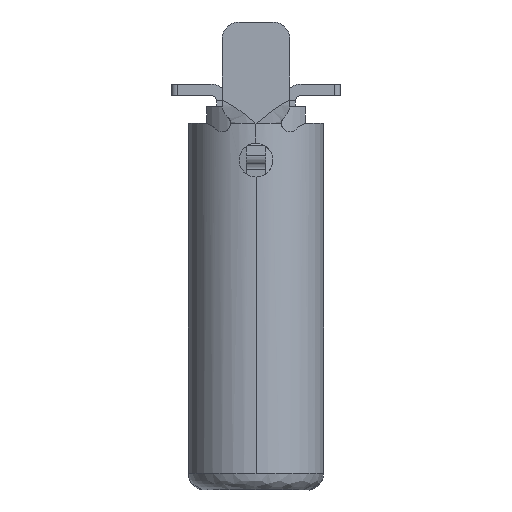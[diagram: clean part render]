
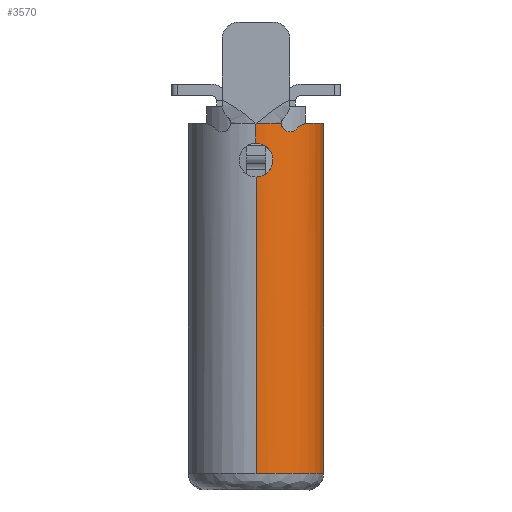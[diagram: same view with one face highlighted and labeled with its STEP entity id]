
A CAD part, left-side view. The second image highlights one B-rep face of the part: STEP entity #3570.
In plain terms, the highlighted cylindrical face has radius 1.2 mm (diameter 2.4 mm), a partial arc.
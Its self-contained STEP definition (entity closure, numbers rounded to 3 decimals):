
#1636 = FACE_OUTER_BOUND ( 'NONE', #39449, .T. ) ;
#1639 = CYLINDRICAL_SURFACE ( 'NONE', #37293, 1.2 ) ;
#3570 = ADVANCED_FACE ( 'NONE', ( #1636 ), #1639, .T. ) ;
#6111 = DIRECTION ( 'NONE',  ( 0., 0., -1. ) ) ;
#6112 = DIRECTION ( 'NONE',  ( -1., 0., 0. ) ) ;
#6115 = CARTESIAN_POINT ( 'NONE',  ( -2.925, 0., 9.575 ) ) ;
#7229 = EDGE_CURVE ( 'NONE', #37765, #37744, #39747, .T. ) ;
#7249 = EDGE_CURVE ( 'NONE', #37744, #37809, #10380, .T. ) ;
#7250 = EDGE_CURVE ( 'NONE', #37809, #37813, #10378, .T. ) ;
#7251 = EDGE_CURVE ( 'NONE', #37813, #37814, #11701, .T. ) ;
#7252 = EDGE_CURVE ( 'NONE', #37814, #37815, #10383, .T. ) ;
#7253 = EDGE_CURVE ( 'NONE', #37812, #37815, #10381, .T. ) ;
#7254 = EDGE_CURVE ( 'NONE', #37797, #37812, #10385, .T. ) ;
#7255 = EDGE_CURVE ( 'NONE', #37797, #37818, #10377, .T. ) ;
#7256 = EDGE_CURVE ( 'NONE', #37818, #37819, #11698, .T. ) ;
#7257 = EDGE_CURVE ( 'NONE', #37819, #37765, #31664, .T. ) ;
#9384 = CARTESIAN_POINT ( 'NONE',  ( -4.004, -0.527, 7.813 ) ) ;
#9389 = CARTESIAN_POINT ( 'NONE',  ( -3.985, -0.564, 7.8 ) ) ;
#9392 = CARTESIAN_POINT ( 'NONE',  ( -3.964, -0.6, 7.8 ) ) ;
#9394 = CARTESIAN_POINT ( 'NONE',  ( -4.03, -0.469, 7.867 ) ) ;
#9395 = CARTESIAN_POINT ( 'NONE',  ( -4.037, -0.45, 7.908 ) ) ;
#9396 = CARTESIAN_POINT ( 'NONE',  ( -4.037, -0.45, 7.95 ) ) ;
#9480 = DIRECTION ( 'NONE',  ( 0., 0., -1. ) ) ;
#9481 = CARTESIAN_POINT ( 'NONE',  ( -4.125, 0., 9.575 ) ) ;
#9493 = CARTESIAN_POINT ( 'NONE',  ( -4.125, 0., 7.6 ) ) ;
#9494 = CARTESIAN_POINT ( 'NONE',  ( -4.125, -0.079, 7.6 ) ) ;
#9495 = CARTESIAN_POINT ( 'NONE',  ( -2.925, 0., 7.95 ) ) ;
#9496 = DIRECTION ( 'NONE',  ( 0., 0., -1. ) ) ;
#9497 = DIRECTION ( 'NONE',  ( -1., 0., 0. ) ) ;
#9498 = DIRECTION ( 'NONE',  ( 0., 0., -1. ) ) ;
#9499 = CARTESIAN_POINT ( 'NONE',  ( -2.925, -1.2, 5.636 ) ) ;
#9500 = CARTESIAN_POINT ( 'NONE',  ( -4.116, -0.157, 7.567 ) ) ;
#9501 = CARTESIAN_POINT ( 'NONE',  ( -4.096, -0.267, 7.457 ) ) ;
#9502 = CARTESIAN_POINT ( 'NONE',  ( -4.087, -0.3, 7.379 ) ) ;
#9503 = CARTESIAN_POINT ( 'NONE',  ( -4.087, -0.3, 7.221 ) ) ;
#9504 = CARTESIAN_POINT ( 'NONE',  ( -4.096, -0.267, 7.143 ) ) ;
#9505 = CARTESIAN_POINT ( 'NONE',  ( -4.116, -0.157, 7.033 ) ) ;
#9506 = CARTESIAN_POINT ( 'NONE',  ( -4.125, -0.079, 7. ) ) ;
#9507 = CARTESIAN_POINT ( 'NONE',  ( -4.125, 0., 7. ) ) ;
#9508 = CARTESIAN_POINT ( 'NONE',  ( -4.125, 0., 9.575 ) ) ;
#9509 = DIRECTION ( 'NONE',  ( 0., 0., -1. ) ) ;
#9510 = CARTESIAN_POINT ( 'NONE',  ( -3.913, -0.682, 7.817 ) ) ;
#9511 = CARTESIAN_POINT ( 'NONE',  ( -2.925, 0., 1.744 ) ) ;
#9512 = DIRECTION ( 'NONE',  ( 0., 0., -1. ) ) ;
#9513 = DIRECTION ( 'NONE',  ( -1., 0., 0. ) ) ;
#9514 = CARTESIAN_POINT ( 'NONE',  ( -3.891, -0.712, 7.85 ) ) ;
#9515 = CARTESIAN_POINT ( 'NONE',  ( -3.72, -0.9, 7.95 ) ) ;
#9516 = CARTESIAN_POINT ( 'NONE',  ( -3.761, -0.863, 7.944 ) ) ;
#9517 = CARTESIAN_POINT ( 'NONE',  ( -2.925, 0., 7.95 ) ) ;
#9518 = DIRECTION ( 'NONE',  ( 0., 0., -1. ) ) ;
#9519 = DIRECTION ( 'NONE',  ( -1., 0., 0. ) ) ;
#9520 = CARTESIAN_POINT ( 'NONE',  ( -3.677, -0.935, 7.95 ) ) ;
#9521 = CARTESIAN_POINT ( 'NONE',  ( -3.834, -0.785, 7.913 ) ) ;
#9522 = CARTESIAN_POINT ( 'NONE',  ( -3.866, -0.745, 7.888 ) ) ;
#9523 = CARTESIAN_POINT ( 'NONE',  ( -3.891, -0.712, 7.85 ) ) ;
#9525 = CARTESIAN_POINT ( 'NONE',  ( -3.94, -0.642, 7.8 ) ) ;
#9526 = CARTESIAN_POINT ( 'NONE',  ( -3.964, -0.6, 7.8 ) ) ;
#9872 = AXIS2_PLACEMENT_3D ( 'NONE', #9495, #9496, #9497 ) ;
#9873 = AXIS2_PLACEMENT_3D ( 'NONE', #9511, #9512, #9513 ) ;
#9874 = AXIS2_PLACEMENT_3D ( 'NONE', #9517, #9518, #9519 ) ;
#10377 = CIRCLE ( 'NONE', #9874, 1.2 ) ;
#10378 = LINE ( 'NONE', #9481, #10382 ) ;
#10380 = CIRCLE ( 'NONE', #9872, 1.2 ) ;
#10381 = CIRCLE ( 'NONE', #9873, 1.2 ) ;
#10382 = VECTOR ( 'NONE', #9480, 1000. ) ;
#10383 = LINE ( 'NONE', #9508, #10384 ) ;
#10384 = VECTOR ( 'NONE', #9509, 1000. ) ;
#10385 = LINE ( 'NONE', #9499, #10387 ) ;
#10387 = VECTOR ( 'NONE', #9498, 1000. ) ;
#11698 = B_SPLINE_CURVE_WITH_KNOTS ( 'NONE', 3,
 ( #9520, #9515, #9516, #9521, #9522, #9523 ),
 .UNSPECIFIED., .F., .F.,
 ( 4, 2, 4 ),
 ( 0., 0., 0. ),
 .UNSPECIFIED. ) ;
#11701 = B_SPLINE_CURVE_WITH_KNOTS ( 'NONE', 3,
 ( #9493, #9494, #9500, #9501, #9502, #9503, #9504, #9505, #9506, #9507 ),
 .UNSPECIFIED., .F., .F.,
 ( 4, 2, 2, 2, 4 ),
 ( 0., 0., 0.001, 0.001, 0.001 ),
 .UNSPECIFIED. ) ;
#12550 = ORIENTED_EDGE ( 'NONE', *, *, #7249, .T. ) ;
#12551 = ORIENTED_EDGE ( 'NONE', *, *, #7250, .T. ) ;
#12552 = ORIENTED_EDGE ( 'NONE', *, *, #7251, .T. ) ;
#12553 = ORIENTED_EDGE ( 'NONE', *, *, #7252, .T. ) ;
#12554 = ORIENTED_EDGE ( 'NONE', *, *, #7253, .F. ) ;
#12555 = ORIENTED_EDGE ( 'NONE', *, *, #7254, .F. ) ;
#12556 = ORIENTED_EDGE ( 'NONE', *, *, #7255, .T. ) ;
#12557 = ORIENTED_EDGE ( 'NONE', *, *, #7256, .T. ) ;
#12558 = ORIENTED_EDGE ( 'NONE', *, *, #7257, .T. ) ;
#12559 = ORIENTED_EDGE ( 'NONE', *, *, #7229, .T. ) ;
#27202 = CARTESIAN_POINT ( 'NONE',  ( -4.037, -0.45, 7.95 ) ) ;
#27223 = CARTESIAN_POINT ( 'NONE',  ( -3.964, -0.6, 7.8 ) ) ;
#27255 = CARTESIAN_POINT ( 'NONE',  ( -2.925, -1.2, 7.95 ) ) ;
#27267 = CARTESIAN_POINT ( 'NONE',  ( -4.125, 0., 7.95 ) ) ;
#27270 = CARTESIAN_POINT ( 'NONE',  ( -2.925, -1.2, 1.744 ) ) ;
#27271 = CARTESIAN_POINT ( 'NONE',  ( -4.125, 0., 7.6 ) ) ;
#27272 = CARTESIAN_POINT ( 'NONE',  ( -4.125, 0., 7. ) ) ;
#27273 = CARTESIAN_POINT ( 'NONE',  ( -4.125, 0., 1.744 ) ) ;
#27276 = CARTESIAN_POINT ( 'NONE',  ( -3.677, -0.935, 7.95 ) ) ;
#27277 = CARTESIAN_POINT ( 'NONE',  ( -3.891, -0.712, 7.85 ) ) ;
#31664 = B_SPLINE_CURVE_WITH_KNOTS ( 'NONE', 3,
 ( #9514, #9510, #9525, #9526 ),
 .UNSPECIFIED., .F., .F.,
 ( 4, 4 ),
 ( 0., 0. ),
 .UNSPECIFIED. ) ;
#37293 = AXIS2_PLACEMENT_3D ( 'NONE', #6115, #6111, #6112 ) ;
#37744 = VERTEX_POINT ( 'NONE', #27202 ) ;
#37765 = VERTEX_POINT ( 'NONE', #27223 ) ;
#37797 = VERTEX_POINT ( 'NONE', #27255 ) ;
#37809 = VERTEX_POINT ( 'NONE', #27267 ) ;
#37812 = VERTEX_POINT ( 'NONE', #27270 ) ;
#37813 = VERTEX_POINT ( 'NONE', #27271 ) ;
#37814 = VERTEX_POINT ( 'NONE', #27272 ) ;
#37815 = VERTEX_POINT ( 'NONE', #27273 ) ;
#37818 = VERTEX_POINT ( 'NONE', #27276 ) ;
#37819 = VERTEX_POINT ( 'NONE', #27277 ) ;
#39449 = EDGE_LOOP ( 'NONE', ( #12550, #12551, #12552, #12553, #12554, #12555, #12556, #12557, #12558, #12559 ) ) ;
#39747 = B_SPLINE_CURVE_WITH_KNOTS ( 'NONE', 3,
 ( #9392, #9389, #9384, #9394, #9395, #9396 ),
 .UNSPECIFIED., .F., .F.,
 ( 4, 2, 4 ),
 ( 0., 0., 0. ),
 .UNSPECIFIED. ) ;
